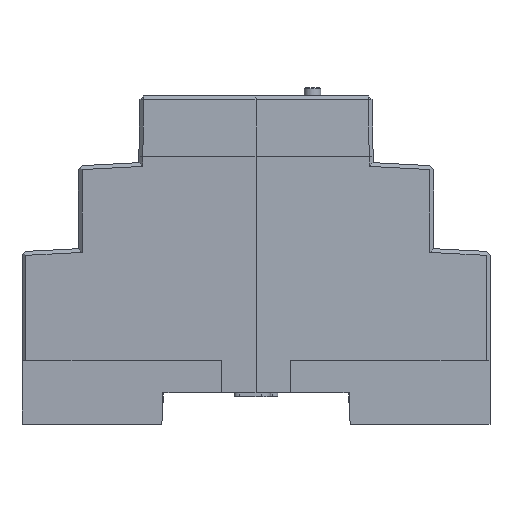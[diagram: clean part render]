
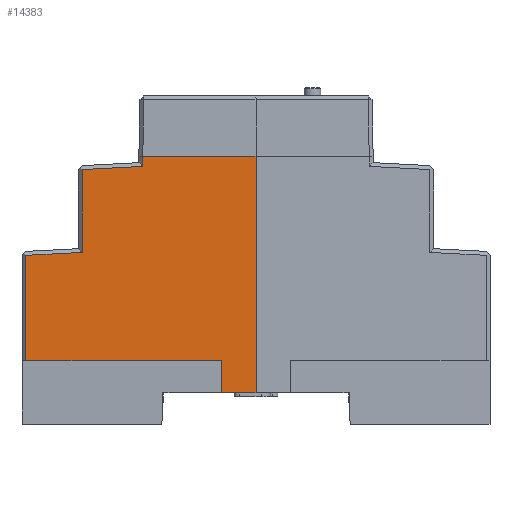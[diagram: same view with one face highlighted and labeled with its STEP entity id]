
A CAD part, front view. The second image highlights one B-rep face of the part: STEP entity #14383.
In plain terms, the highlighted planar face has unit normal (-0.018, -1, 0).
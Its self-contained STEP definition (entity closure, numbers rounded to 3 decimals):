
#650=LINE('',#20965,#2323);
#930=LINE('',#21672,#2603);
#933=LINE('',#21678,#2606);
#951=LINE('',#21717,#2624);
#954=LINE('',#21723,#2627);
#957=LINE('',#21728,#2630);
#959=LINE('',#21731,#2632);
#1084=LINE('',#22110,#2757);
#1085=LINE('',#22112,#2758);
#1086=LINE('',#22113,#2759);
#2323=VECTOR('',#16797,1.);
#2603=VECTOR('',#17425,1.);
#2606=VECTOR('',#17430,1.);
#2624=VECTOR('',#17462,1.);
#2627=VECTOR('',#17467,1.);
#2630=VECTOR('',#17472,1.);
#2632=VECTOR('',#17476,1.);
#2757=VECTOR('',#17815,1.);
#2758=VECTOR('',#17816,1.);
#2759=VECTOR('',#17817,1.);
#3785=PLANE('',#15304);
#4501=FACE_OUTER_BOUND('',#5271,.T.);
#5271=EDGE_LOOP('',(#11198,#11199,#11200,#11201,#11202,#11203,#11204,#11205,
#11206,#11207));
#6344=VERTEX_POINT('',#20957);
#6346=VERTEX_POINT('',#20963);
#6539=VERTEX_POINT('',#21670);
#6541=VERTEX_POINT('',#21676);
#6554=VERTEX_POINT('',#21714);
#6555=VERTEX_POINT('',#21716);
#6557=VERTEX_POINT('',#21722);
#6558=VERTEX_POINT('',#21727);
#6653=VERTEX_POINT('',#22109);
#6654=VERTEX_POINT('',#22111);
#7778=EDGE_CURVE('',#6344,#6346,#650,.T.);
#8103=EDGE_CURVE('',#6346,#6539,#930,.T.);
#8106=EDGE_CURVE('',#6539,#6541,#933,.T.);
#8125=EDGE_CURVE('',#6555,#6554,#951,.T.);
#8128=EDGE_CURVE('',#6557,#6555,#954,.T.);
#8131=EDGE_CURVE('',#6558,#6557,#957,.T.);
#8133=EDGE_CURVE('',#6541,#6558,#959,.T.);
#8301=EDGE_CURVE('',#6554,#6653,#1084,.T.);
#8302=EDGE_CURVE('',#6654,#6653,#1085,.T.);
#8303=EDGE_CURVE('',#6654,#6344,#1086,.T.);
#11198=ORIENTED_EDGE('',*,*,#8103,.T.);
#11199=ORIENTED_EDGE('',*,*,#8106,.T.);
#11200=ORIENTED_EDGE('',*,*,#8133,.T.);
#11201=ORIENTED_EDGE('',*,*,#8131,.T.);
#11202=ORIENTED_EDGE('',*,*,#8128,.T.);
#11203=ORIENTED_EDGE('',*,*,#8125,.T.);
#11204=ORIENTED_EDGE('',*,*,#8301,.T.);
#11205=ORIENTED_EDGE('',*,*,#8302,.F.);
#11206=ORIENTED_EDGE('',*,*,#8303,.T.);
#11207=ORIENTED_EDGE('',*,*,#7778,.T.);
#14383=ADVANCED_FACE('',(#4501),#3785,.T.);
#15304=AXIS2_PLACEMENT_3D('',#22108,#17813,#17814);
#16797=DIRECTION('',(-1.,0.017,0.));
#17425=DIRECTION('',(0.,0.,-1.));
#17430=DIRECTION('',(-0.998,0.017,-0.052));
#17462=DIRECTION('',(1.,-0.017,0.));
#17467=DIRECTION('',(0.,0.,-1.));
#17472=DIRECTION('',(-0.998,0.017,-0.052));
#17476=DIRECTION('',(0.,0.,-1.));
#17813=DIRECTION('center_axis',(-0.017,-1.,
0.));
#17814=DIRECTION('ref_axis',(0.,0.,1.));
#17815=DIRECTION('',(0.,0.,-1.));
#17816=DIRECTION('',(-1.,0.017,0.));
#17817=DIRECTION('',(0.,0.,1.));
#20957=CARTESIAN_POINT('',(0.,-17.75,45.2));
#20963=CARTESIAN_POINT('',(-21.65,-17.372,45.2));
#20965=CARTESIAN_POINT('',(0.,-17.75,45.2));
#21670=CARTESIAN_POINT('',(-21.65,-17.372,43.288));
#21672=CARTESIAN_POINT('',(-21.65,-17.372,45.2));
#21676=CARTESIAN_POINT('',(-33.25,-17.17,42.68));
#21678=CARTESIAN_POINT('',(-21.65,-17.372,43.288));
#21714=CARTESIAN_POINT('',(-6.644,-17.634,6.15));
#21716=CARTESIAN_POINT('',(-44.,-16.982,6.15));
#21717=CARTESIAN_POINT('',(-44.,-16.982,6.15));
#21722=CARTESIAN_POINT('',(-44.,-16.982,26.275));
#21723=CARTESIAN_POINT('',(-44.,-16.982,26.275));
#21727=CARTESIAN_POINT('',(-33.25,-17.17,26.838));
#21728=CARTESIAN_POINT('',(-33.25,-17.17,26.838));
#21731=CARTESIAN_POINT('',(-33.25,-17.17,42.68));
#22108=CARTESIAN_POINT('Origin',(3.386,-17.809,-0.905));
#22109=CARTESIAN_POINT('',(-6.644,-17.634,0.));
#22110=CARTESIAN_POINT('',(-6.644,-17.634,6.15));
#22111=CARTESIAN_POINT('',(0.,-17.75,0.));
#22112=CARTESIAN_POINT('',(0.,-17.75,0.));
#22113=CARTESIAN_POINT('',(0.,-17.75,0.));
